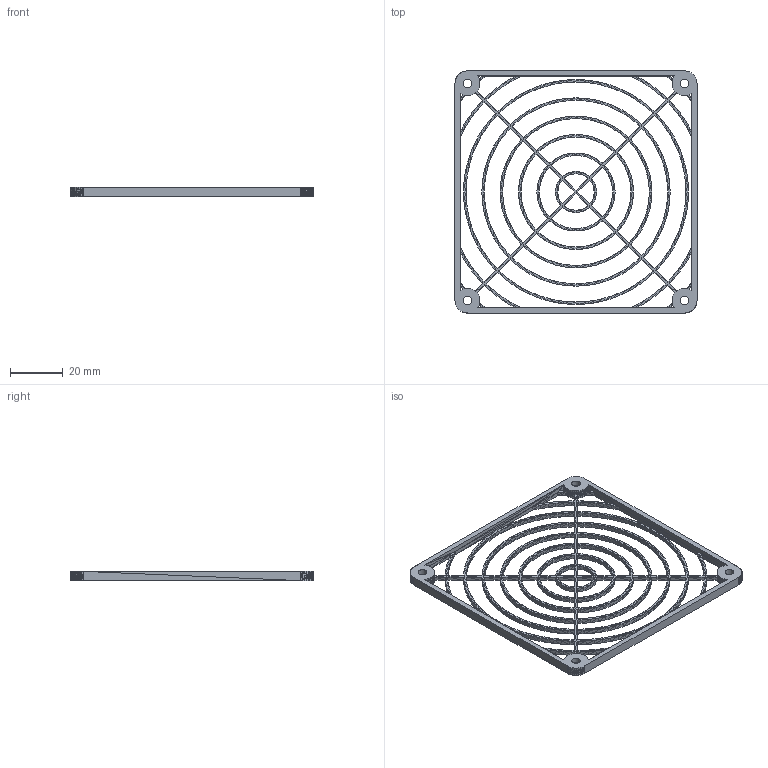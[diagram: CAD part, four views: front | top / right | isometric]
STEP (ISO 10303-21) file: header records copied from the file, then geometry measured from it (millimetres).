
FILE_DESCRIPTION(/* description */ (''),/* implementation_level */ '2;1');
FILE_NAME(/* name */ 'D:/Down/Druck/Tisch/LueftergitterV58.step',/* time_stamp */ '2022-02-09T16:41:09+07:00',/* author */ (''),/* organization */ (''),/* preprocessor_version */ 'ST-DEVELOPER v18.1',/* originating_system */ 'Autodesk Translation Framework v10.13.0.1454',/* authorisation */ '');
FILE_SCHEMA (('AUTOMOTIVE_DESIGN { 1 0 10303 214 3 1 1 }'));
Products named in the file (1): Lueftergitter
Bounding box: 92 x 92 x 3.5 mm (x, y, z)
Volume: 4830.6 mm3; surface area: 10644.7 mm2
Topology: 1 solids, 1 shells, 3113 faces, 5276 edges, 2122 vertices
Faces by surface type: plane 3105, cone 4, cylinder 4
Full cylindrical faces by diameter (mm): 3.3 x4
Entity records: 66246 total; most frequent: DIRECTION 11516, ORIENTED_EDGE 10552, CARTESIAN_POINT 10512, EDGE_CURVE 5276, LINE 5264, VECTOR 5264, EDGE_LOOP 3166, AXIS2_PLACEMENT_3D 3126
